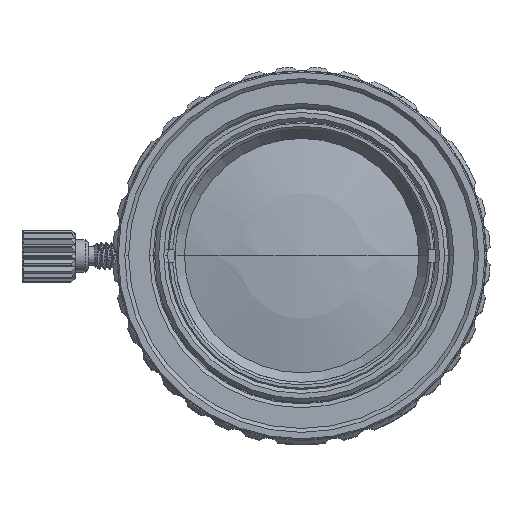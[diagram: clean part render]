
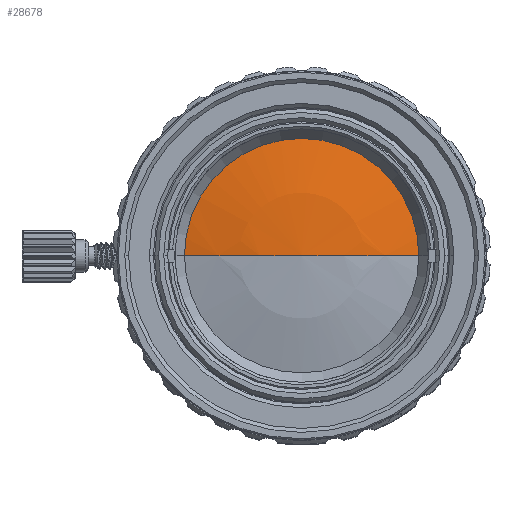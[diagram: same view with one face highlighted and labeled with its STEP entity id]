
A CAD part, top view. The second image highlights one B-rep face of the part: STEP entity #28678.
In plain terms, the highlighted spherical face has radius 37.025 mm.
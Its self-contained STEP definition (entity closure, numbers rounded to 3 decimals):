
#28531=CARTESIAN_POINT('',(14.2,36.759,-0.67));
#28532=DIRECTION('',(0.,0.,1.));
#28533=DIRECTION('',(1.,0.,0.));
#28534=AXIS2_PLACEMENT_3D('',#28531,#28532,#28533);
#28536=CARTESIAN_POINT('',(14.2,36.759,-0.67));
#28537=DIRECTION('',(0.,0.,1.));
#28538=DIRECTION('',(0.,1.,0.));
#28539=AXIS2_PLACEMENT_3D('',#28536,#28537,#28538);
#28577=CARTESIAN_POINT('',(14.2,36.759,-36.433));
#28578=DIRECTION('',(0.,1.,0.));
#28579=DIRECTION('',(-0.259,0.,0.966));
#28580=AXIS2_PLACEMENT_3D('',#28577,#28578,#28579);
#28582=CARTESIAN_POINT('',(14.2,36.759,-36.433));
#28583=DIRECTION('',(0.,1.,0.));
#28584=DIRECTION('',(0.,0.,1.));
#28585=AXIS2_PLACEMENT_3D('',#28582,#28583,#28584);
#28635=CARTESIAN_POINT('',(14.2,46.345,-0.67));
#28636=CARTESIAN_POINT('',(4.614,36.759,
-0.67));
#28637=VERTEX_POINT('',#28635);
#28638=VERTEX_POINT('',#28636);
#28639=CARTESIAN_POINT('',(23.786,36.759,
-0.67));
#28640=VERTEX_POINT('',#28639);
#28651=CARTESIAN_POINT('',(14.2,36.759,0.592));
#28652=VERTEX_POINT('',#28651);
#28663=CARTESIAN_POINT('',(14.2,36.759,-36.433));
#28664=DIRECTION('',(0.,0.,-1.));
#28665=DIRECTION('',(-1.,0.,0.));
#28666=AXIS2_PLACEMENT_3D('',#28663,#28664,#28665);
#28667=SPHERICAL_SURFACE('',#28666,37.025);
#28669=ORIENTED_EDGE('',*,*,#28668,.F.);
#28671=ORIENTED_EDGE('',*,*,#28670,.F.);
#28673=ORIENTED_EDGE('',*,*,#28672,.F.);
#28675=ORIENTED_EDGE('',*,*,#28674,.F.);
#28676=EDGE_LOOP('',(#28669,#28671,#28673,#28675));
#28677=FACE_OUTER_BOUND('',#28676,.F.);
#28535=CIRCLE('',#28534,9.586);
#28540=CIRCLE('',#28539,9.586);
#28581=CIRCLE('',#28580,37.025);
#28586=CIRCLE('',#28585,37.025);
#28668=EDGE_CURVE('',#28637,#28638,#28540,.T.);
#28670=EDGE_CURVE('',#28640,#28637,#28535,.T.);
#28672=EDGE_CURVE('',#28652,#28640,#28586,.T.);
#28674=EDGE_CURVE('',#28638,#28652,#28581,.T.);
#28678=ADVANCED_FACE('',(#28677),#28667,.T.);
